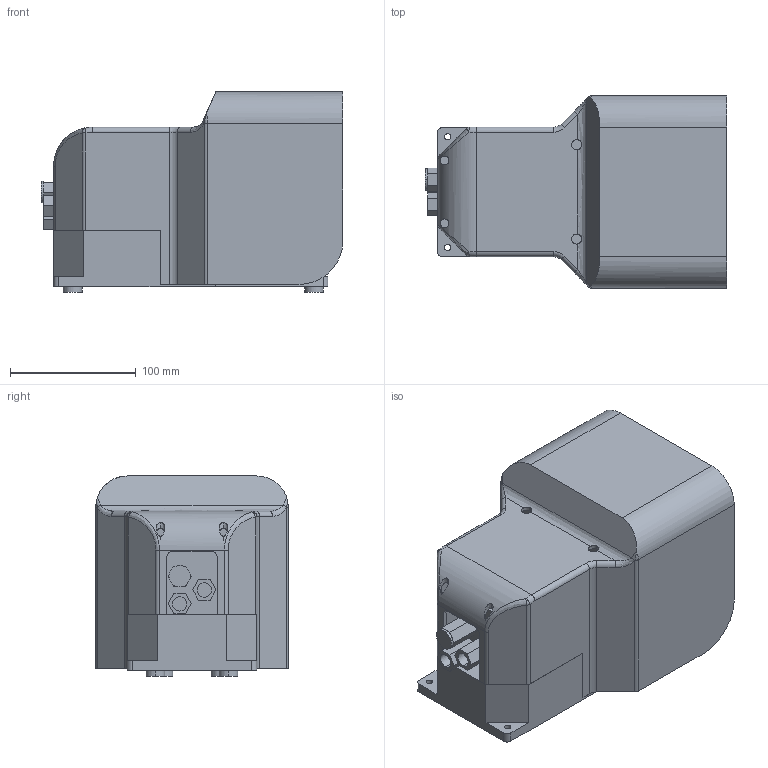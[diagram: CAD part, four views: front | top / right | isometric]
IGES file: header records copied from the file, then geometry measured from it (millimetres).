
Global section: file name: No Iges File Name specified; native system: AutoDesk Inventor R11.0; preprocessor: AutoDesk Inventor Iges Exporter R11.0; author: No Author specified; organization: No Organization specified; date: 20061219.113459; units: millimetre
Bounding box: 240 x 153 x 159 mm (x, y, z)
Volume: 1073564.1 mm3; surface area: 299595 mm2
Topology: 2 solids, 3 shells, 215 faces, 562 edges, 358 vertices
Faces by surface type: plane 109, cylinder 40, bspline 32, revolution 28, torus 4, sphere 2
